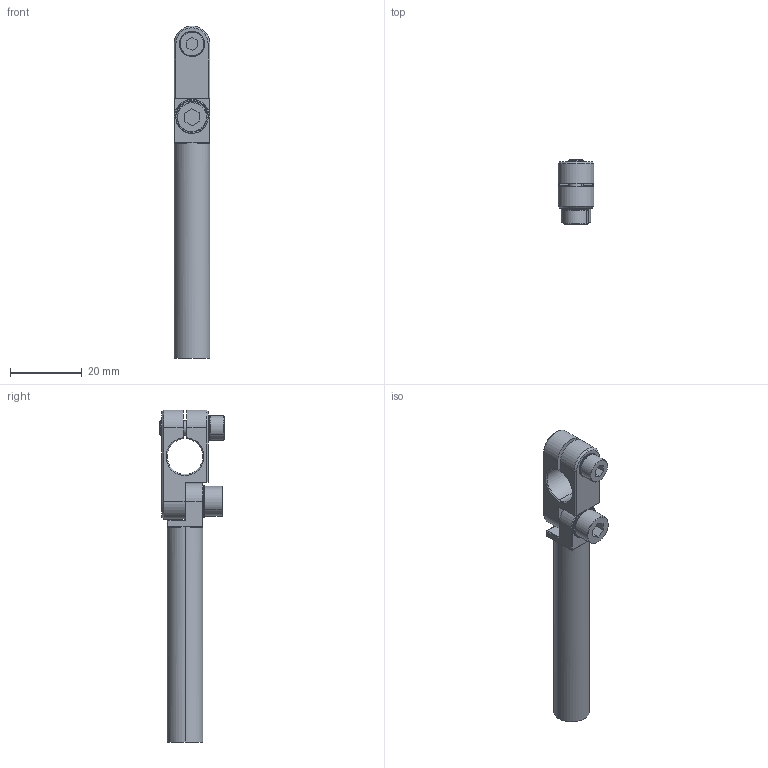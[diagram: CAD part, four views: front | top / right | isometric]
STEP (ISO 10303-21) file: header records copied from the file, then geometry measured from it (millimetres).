
FILE_DESCRIPTION (( 'STEP AP214' ), '1' );
FILE_NAME ('SEA-1010L60T.STEP', '2023-02-03T02:27:58', ( 'Windows User' ), ( 'P R C' ), 'SwSTEP 2.0', 'SolidWorks 2019', '' );
FILE_SCHEMA (( 'AUTOMOTIVE_DESIGN' ));
Length unit declared in the file: millimetre
Products named in the file (7): PTS-M4; SEA-1010L60.2; PTC-M5L12; PTC-M4L14; PTS-M5; SEA-1010L60T; SEA-1010L60.1
Assembly tree (6 placements, depth 2):
  SEA-1010L60T
    SEA-1010L60.1
    SEA-1010L60.2
    PTC-M4L14
    PTC-M5L12
    PTS-M5
    PTS-M4
Bounding box: 10 x 18 x 92.8 mm (x, y, z)
Volume: 6602.1 mm3; surface area: 6197.4 mm2
Topology: 6 solids, 6 shells, 454 faces, 1264 edges, 823 vertices
Faces by surface type: plane 389, cylinder 34, cone 31
Entity records: 14893 total; most frequent: DIRECTION 2601, CARTESIAN_POINT 2586, ORIENTED_EDGE 2528, EDGE_CURVE 1264, AXIS2_PLACEMENT_3D 886, VECTOR 829, LINE 829, VERTEX_POINT 823
